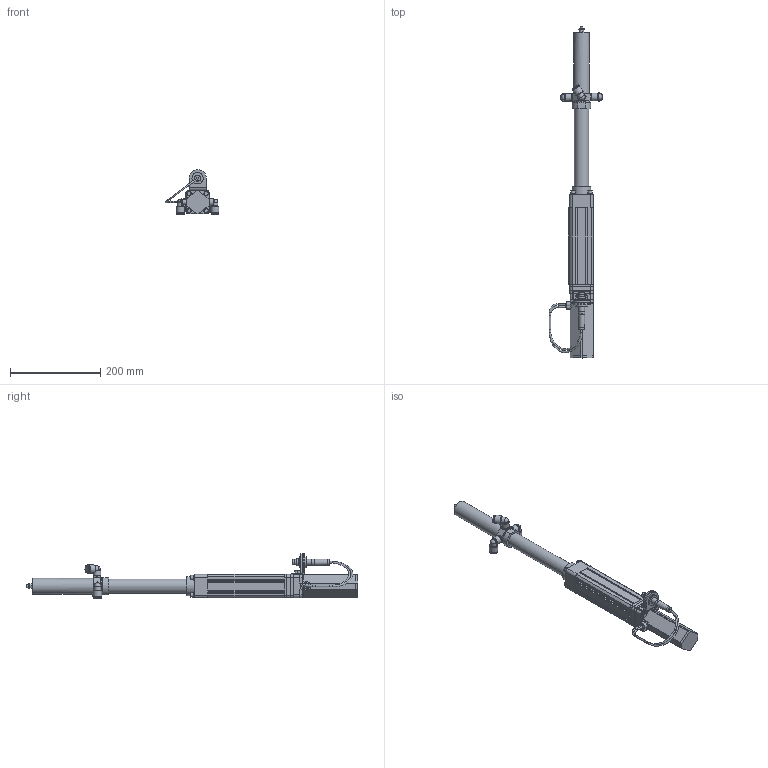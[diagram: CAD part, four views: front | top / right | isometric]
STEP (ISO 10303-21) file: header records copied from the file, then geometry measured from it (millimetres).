
FILE_DESCRIPTION(/* description */ (''),/* implementation_level */ '2;1');
FILE_NAME(/* name */ 'ASSY,VFIA,90MM,40MM BORE,S3 (622-92911) STEP FILE - REV C.stp',/* time_stamp */ '2026-03-25T13:08:48-04:00',/* author */ ('ASSY,VFIA,90MM,40MM BORE,S3'),/* organization */ ('CenterLine (Windsor) Limited'),/* preprocessor_version */ 'ST-DEVELOPER v20',/* originating_system */ 'Autodesk Inventor 2024',/* authorisation */ '');
FILE_SCHEMA (('AUTOMOTIVE_DESIGN { 1 0 10303 214 3 1 1 }'));
Length unit declared in the file: centimetre
Products named in the file (3): Assembly1; [Primary]_ASSY,VFIA,90MM,40MM BORE,S3; TOP_ASSY,VFIA,90MM,40MM BORE,S3
Assembly tree (2 placements, depth 2):
  Assembly1
    [Primary]_ASSY,VFIA,90MM,40MM BORE,S3
    TOP_ASSY,VFIA,90MM,40MM BORE,S3
Bounding box: 119.4 x 734.8 x 99.13 mm (x, y, z)
Volume: 2397267.5 mm3; surface area: 296934 mm2
Topology: 2 solids, 2 shells, 695 faces, 1616 edges, 997 vertices
Faces by surface type: plane 366, cylinder 170, cone 137, torus 16, sphere 6
Full cylindrical faces by diameter (mm): 3.5 x6, 5.5 x4, 6 x5, 10 x16, 10.8 x12, 10.92 x2, 11.1 x6, 12 x2, 13.44 x2, 16 x3, 16.5 x6, 17 x6, 18.5 x6, 25 x4, 31.75 x2, 34.925 x2, 36.576 x2, 41.402 x2
Entity records: 19864 total; most frequent: CARTESIAN_POINT 3937, DIRECTION 3471, ORIENTED_EDGE 3208, EDGE_CURVE 1604, AXIS2_PLACEMENT_3D 1355, VERTEX_POINT 995, EDGE_LOOP 789, LINE 761
